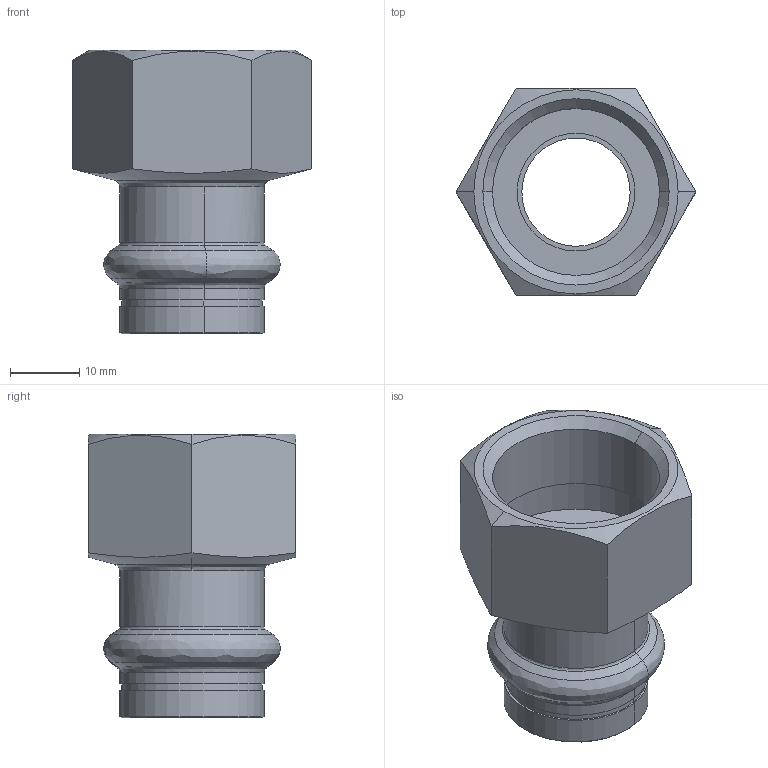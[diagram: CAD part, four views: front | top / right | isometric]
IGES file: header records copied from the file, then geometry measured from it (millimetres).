
Start section: Elysium IGES Interface
Global section: file name: F:\3d modellen sudo\S-Pr VP\SP6270GV\6270GVW1834.igs; native system: CoCreate Modeling 17.00A  17-Jun-2010; preprocessor: CoCreate IGES_3D V2.2; author: Unknown; organization: Unknown; date: 20130128.123800; units: millimetre
Bounding box: 34.64 x 30 x 41 mm (x, y, z)
Volume: 8128 mm3; surface area: 7478.6 mm2
Topology: 1 solids, 1 shells, 59 faces, 124 edges, 72 vertices
Faces by surface type: bspline 59
